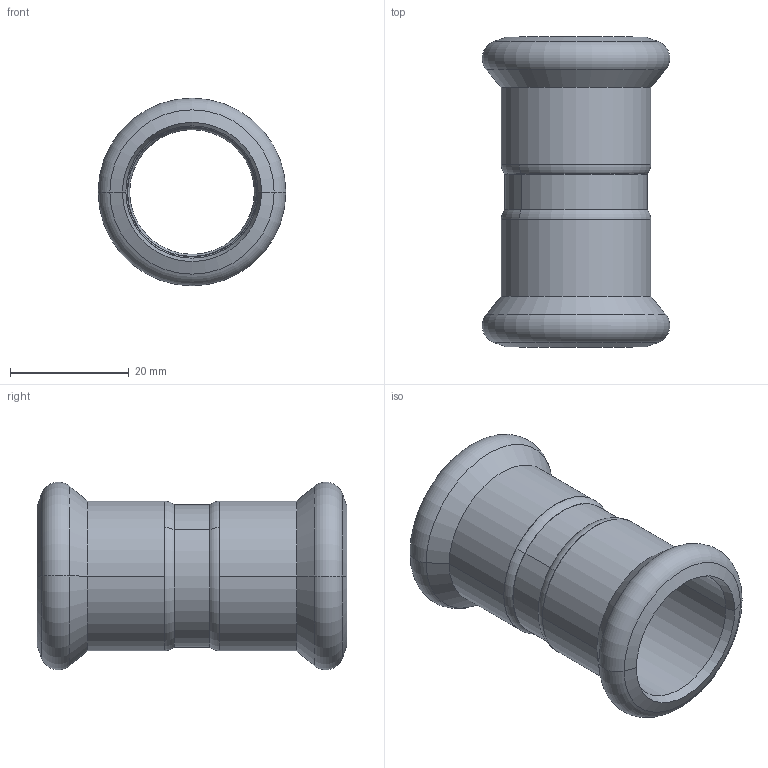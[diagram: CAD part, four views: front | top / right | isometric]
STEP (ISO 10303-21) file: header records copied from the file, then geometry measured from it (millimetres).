
FILE_DESCRIPTION(('Creo Elements/Direct Modeling STEP Export'),'2;1');
FILE_NAME('657138.2.stp','2018-06-29T14:41:47',(''),(''),'PTC Creo Elements/Direct Modeling STEP processor for AP214 (Solid Model)','PTC Creo Elements/Direct Modeling 19.0C 15-Aug-2015 (C) Parametric Technology GmbH','');
FILE_SCHEMA(('AUTOMOTIVE_DESIGN { 1 0 10303 214 1 1 1 1 }'));
Length unit declared in the file: millimetre
Products named in the file (3): 686003.4.1; Tussenstuk22x22kort.NG; 675138.2.1
Assembly tree (3 placements, depth 2):
  675138.2.1
    686003.4.1  x2
    Tussenstuk22x22kort.NG
Bounding box: 31.6 x 52.17 x 31.6 mm (x, y, z)
Volume: 8578.7 mm3; surface area: 9022.4 mm2
Topology: 3 solids, 3 shells, 52 faces, 104 edges, 56 vertices
Faces by surface type: cone 20, torus 16, cylinder 12, plane 4
Entity records: 994 total; most frequent: DIRECTION 178, ORIENTED_EDGE 156, CARTESIAN_POINT 142, AXIS2_PLACEMENT_3D 78, EDGE_CURVE 78, VERTEX_POINT 42, EDGE_LOOP 42, FACE_OUTER_BOUND 39
